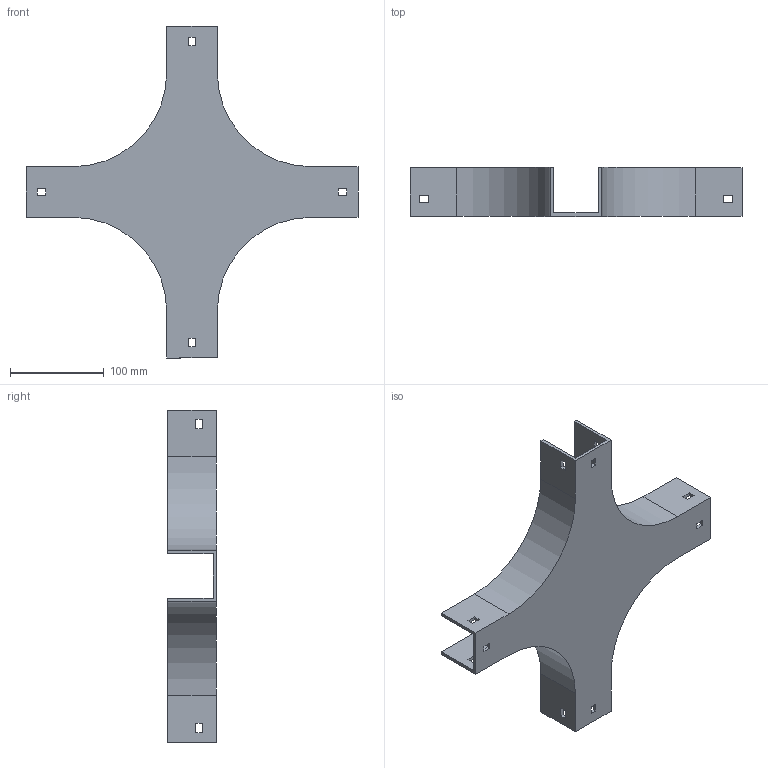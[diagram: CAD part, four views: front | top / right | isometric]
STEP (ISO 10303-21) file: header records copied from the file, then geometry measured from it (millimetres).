
FILE_DESCRIPTION (( 'STEP AP214' ), '1' );
FILE_NAME ('17B1B050.step', '2025-02-21T09:56:57', ( '' ), ( '' ), 'SwSTEP 2.0', 'SolidWorks 2023', '' );
FILE_SCHEMA (( 'AUTOMOTIVE_DESIGN' ));
Length unit declared in the file: millimetre
Products named in the file (1): 17B1B050
Bounding box: 354 x 52 x 354 mm (x, y, z)
Volume: 327294.8 mm3; surface area: 194124.7 mm2
Topology: 1 solids, 1 shells, 82 faces, 240 edges, 160 vertices
Faces by surface type: plane 74, cylinder 8
Entity records: 2751 total; most frequent: CARTESIAN_POINT 483, ORIENTED_EDGE 480, DIRECTION 422, EDGE_CURVE 240, LINE 224, VECTOR 224, VERTEX_POINT 160, EDGE_LOOP 106
